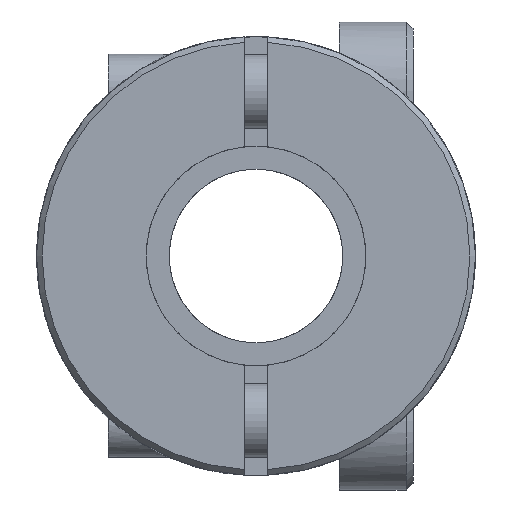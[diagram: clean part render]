
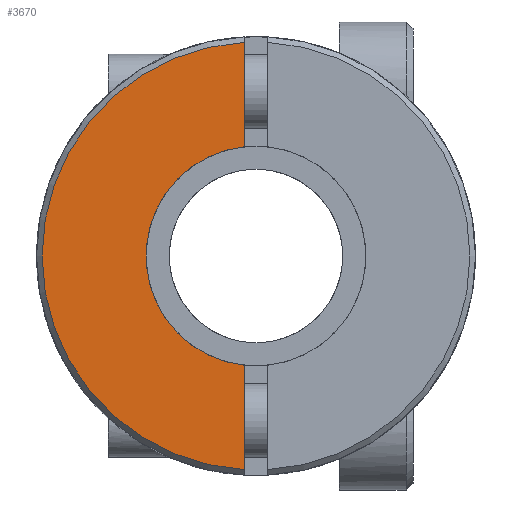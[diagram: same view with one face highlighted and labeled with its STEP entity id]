
A CAD part, front view. The second image highlights one B-rep face of the part: STEP entity #3670.
In plain terms, the highlighted planar face has unit normal (0, -1, 0).
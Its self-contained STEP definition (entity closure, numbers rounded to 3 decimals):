
#1=DIRECTION('',(0.,0.,-1.));
#2=VECTOR('',#1,2.256);
#3=CARTESIAN_POINT('',(-0.25,-9.8,4.623));
#4=LINE('',#3,#2);
#5=DIRECTION('',(0.,0.,-1.));
#6=VECTOR('',#5,2.256);
#7=CARTESIAN_POINT('',(-0.25,-9.8,-2.367));
#8=LINE('',#7,#6);
#72=CARTESIAN_POINT('',(0.,-9.8,0.));
#73=DIRECTION('',(0.,1.,0.));
#74=DIRECTION('',(-0.105,0.,-0.994));
#75=AXIS2_PLACEMENT_3D('',#72,#73,#74);
#2715=CARTESIAN_POINT('',(0.,-9.8,0.));
#2716=DIRECTION('',(0.,-1.,0.));
#2717=DIRECTION('',(-0.054,0.,0.999));
#2718=AXIS2_PLACEMENT_3D('',#2715,#2716,#2717);
#3327=CARTESIAN_POINT('',(-0.25,-9.8,4.623));
#3328=CARTESIAN_POINT('',(-0.25,-9.8,2.367));
#3329=VERTEX_POINT('',#3327);
#3330=VERTEX_POINT('',#3328);
#3331=CARTESIAN_POINT('',(-0.25,-9.8,-2.367));
#3332=CARTESIAN_POINT('',(-0.25,-9.8,-4.623));
#3333=VERTEX_POINT('',#3331);
#3334=VERTEX_POINT('',#3332);
#3655=CARTESIAN_POINT('',(0.,-9.8,0.));
#3656=DIRECTION('',(0.,1.,0.));
#3657=DIRECTION('',(1.,0.,0.));
#3658=AXIS2_PLACEMENT_3D('',#3655,#3656,#3657);
#3659=PLANE('',#3658);
#3661=ORIENTED_EDGE('',*,*,#3660,.T.);
#3663=ORIENTED_EDGE('',*,*,#3662,.F.);
#3665=ORIENTED_EDGE('',*,*,#3664,.T.);
#3667=ORIENTED_EDGE('',*,*,#3666,.F.);
#3668=EDGE_LOOP('',(#3661,#3663,#3665,#3667));
#3669=FACE_OUTER_BOUND('',#3668,.F.);
#3670=ADVANCED_FACE('',(#3669),#3659,.F.);
#76=CIRCLE('',#75,2.38);
#2719=CIRCLE('',#2718,4.63);
#3660=EDGE_CURVE('',#3329,#3330,#4,.T.);
#3662=EDGE_CURVE('',#3333,#3330,#76,.T.);
#3664=EDGE_CURVE('',#3333,#3334,#8,.T.);
#3666=EDGE_CURVE('',#3329,#3334,#2719,.T.);
